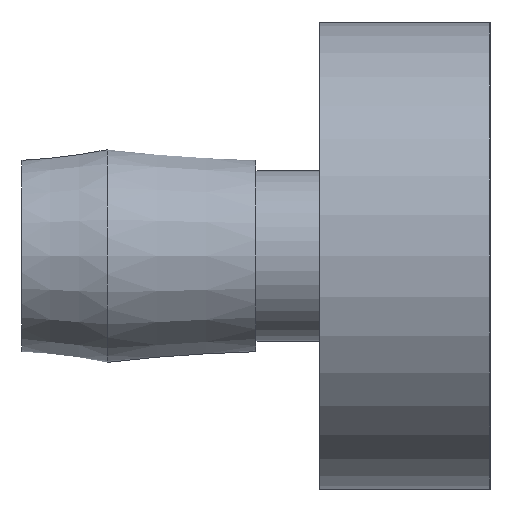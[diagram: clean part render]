
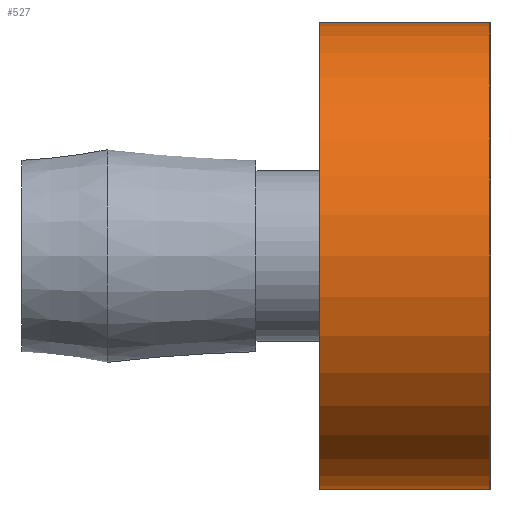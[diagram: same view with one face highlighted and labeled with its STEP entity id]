
A CAD part, left-side view. The second image highlights one B-rep face of the part: STEP entity #527.
In plain terms, the highlighted cylindrical face has radius 11 mm (diameter 22 mm), a partial arc.
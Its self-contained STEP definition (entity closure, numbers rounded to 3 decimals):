
#31=LINE('',#928,#39);
#32=LINE('',#931,#40);
#39=VECTOR('',#769,8.);
#40=VECTOR('',#772,8.);
#157=FACE_OUTER_BOUND('',#221,.T.);
#221=EDGE_LOOP('',(#441,#442,#443,#444));
#279=CIRCLE('',#609,11.);
#280=CIRCLE('',#610,11.);
#321=VERTEX_POINT('',#924);
#322=VERTEX_POINT('',#925);
#323=VERTEX_POINT('',#927);
#324=VERTEX_POINT('',#929);
#367=EDGE_CURVE('',#321,#322,#279,.T.);
#368=EDGE_CURVE('',#323,#322,#31,.T.);
#369=EDGE_CURVE('',#324,#323,#280,.T.);
#370=EDGE_CURVE('',#324,#321,#32,.T.);
#441=ORIENTED_EDGE('',*,*,#367,.T.);
#442=ORIENTED_EDGE('',*,*,#368,.F.);
#443=ORIENTED_EDGE('',*,*,#369,.F.);
#444=ORIENTED_EDGE('',*,*,#370,.T.);
#495=CYLINDRICAL_SURFACE('',#608,11.);
#527=ADVANCED_FACE('',(#157),#495,.T.);
#608=AXIS2_PLACEMENT_3D('',#923,#765,#766);
#609=AXIS2_PLACEMENT_3D('',#926,#767,#768);
#610=AXIS2_PLACEMENT_3D('',#930,#770,#771);
#765=DIRECTION('center_axis',(0.,0.,-1.));
#766=DIRECTION('ref_axis',(-1.,0.,0.));
#767=DIRECTION('center_axis',(0.,0.,1.));
#768=DIRECTION('ref_axis',(-1.,0.,0.));
#769=DIRECTION('',(0.,0.,-1.));
#770=DIRECTION('center_axis',(0.,0.,1.));
#771=DIRECTION('ref_axis',(0.,1.,0.));
#772=DIRECTION('',(0.,0.,-1.));
#923=CARTESIAN_POINT('Origin',(-39.,0.,0.));
#924=CARTESIAN_POINT('',(-39.,11.,-8.));
#925=CARTESIAN_POINT('',(-39.,-11.,-8.));
#926=CARTESIAN_POINT('Origin',(-39.,0.,-8.));
#927=CARTESIAN_POINT('',(-39.,-11.,0.));
#928=CARTESIAN_POINT('',(-39.,-11.,0.));
#929=CARTESIAN_POINT('',(-39.,11.,0.));
#930=CARTESIAN_POINT('Origin',(-39.,0.,0.));
#931=CARTESIAN_POINT('',(-39.,11.,0.));
